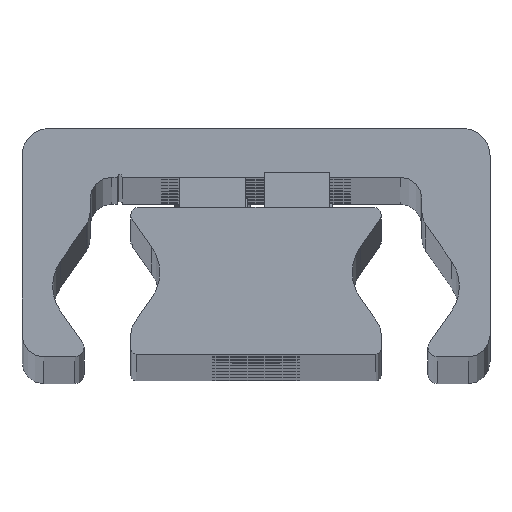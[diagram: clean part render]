
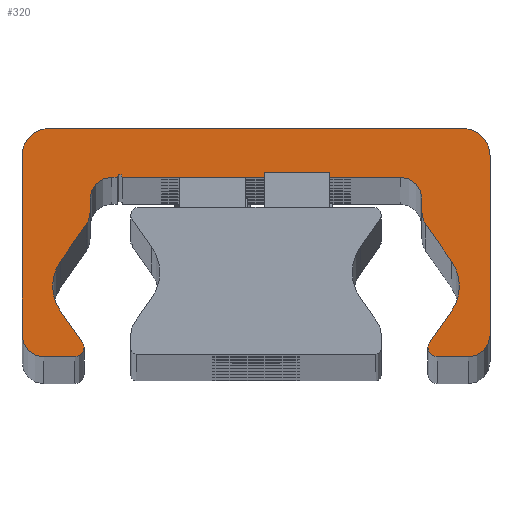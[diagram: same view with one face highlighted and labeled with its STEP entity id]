
A CAD part, top view. The second image highlights one B-rep face of the part: STEP entity #320.
In plain terms, the highlighted planar face has unit normal (0, 0, 1).
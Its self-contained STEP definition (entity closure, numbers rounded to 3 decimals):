
#320=ADVANCED_FACE('',(#910),#911,.T.);
#910=FACE_OUTER_BOUND('',#1501,.T.);
#911=PLANE('',#1502);
#1501=EDGE_LOOP('',(#3482,#3483,#3484,#3485,#3486,#3487,#3488,#3489,#3490,#3491,#3492,#3493,#3494,#3495,#3496,#3497,#3498,#3499,#3500,#3501,#3502,#3503,#3504,#3505,#3506,#3507,#3508,#3509,#3510,#3511));
#1502=AXIS2_PLACEMENT_3D('',#3512,#3513,#3514);
#3482=ORIENTED_EDGE('',*,*,#3899,.F.);
#3483=ORIENTED_EDGE('',*,*,#4182,.F.);
#3484=ORIENTED_EDGE('',*,*,#3885,.F.);
#3485=ORIENTED_EDGE('',*,*,#4181,.F.);
#3486=ORIENTED_EDGE('',*,*,#4177,.F.);
#3487=ORIENTED_EDGE('',*,*,#4174,.F.);
#3488=ORIENTED_EDGE('',*,*,#4171,.F.);
#3489=ORIENTED_EDGE('',*,*,#4168,.F.);
#3490=ORIENTED_EDGE('',*,*,#4165,.F.);
#3491=ORIENTED_EDGE('',*,*,#4162,.F.);
#3492=ORIENTED_EDGE('',*,*,#4159,.F.);
#3493=ORIENTED_EDGE('',*,*,#4156,.F.);
#3494=ORIENTED_EDGE('',*,*,#4153,.F.);
#3495=ORIENTED_EDGE('',*,*,#4150,.F.);
#3496=ORIENTED_EDGE('',*,*,#3891,.F.);
#3497=ORIENTED_EDGE('',*,*,#4148,.F.);
#3498=ORIENTED_EDGE('',*,*,#3893,.F.);
#3499=ORIENTED_EDGE('',*,*,#4147,.F.);
#3500=ORIENTED_EDGE('',*,*,#4143,.F.);
#3501=ORIENTED_EDGE('',*,*,#4140,.F.);
#3502=ORIENTED_EDGE('',*,*,#4137,.F.);
#3503=ORIENTED_EDGE('',*,*,#4134,.F.);
#3504=ORIENTED_EDGE('',*,*,#4131,.F.);
#3505=ORIENTED_EDGE('',*,*,#4128,.F.);
#3506=ORIENTED_EDGE('',*,*,#4125,.F.);
#3507=ORIENTED_EDGE('',*,*,#4122,.F.);
#3508=ORIENTED_EDGE('',*,*,#4119,.F.);
#3509=ORIENTED_EDGE('',*,*,#4116,.F.);
#3510=ORIENTED_EDGE('',*,*,#4113,.F.);
#3511=ORIENTED_EDGE('',*,*,#4110,.F.);
#3512=CARTESIAN_POINT('',(-0.023,14.187,687.0));
#3513=DIRECTION('',(0.0,0.0,1.0));
#3514=DIRECTION('',(1.0,0.0,0.0));
#3885=EDGE_CURVE('',#4720,#4723,#4724,.T.);
#3891=EDGE_CURVE('',#4733,#4729,#4735,.T.);
#3893=EDGE_CURVE('',#4736,#4739,#4740,.T.);
#3899=EDGE_CURVE('',#4749,#4745,#4751,.T.);
#4110=EDGE_CURVE('',#4745,#5090,#5091,.T.);
#4113=EDGE_CURVE('',#5090,#5095,#5096,.T.);
#4116=EDGE_CURVE('',#5095,#5100,#5101,.T.);
#4119=EDGE_CURVE('',#5100,#5105,#5106,.T.);
#4122=EDGE_CURVE('',#5105,#5110,#5111,.T.);
#4125=EDGE_CURVE('',#5110,#5115,#5116,.T.);
#4128=EDGE_CURVE('',#5115,#5120,#5121,.T.);
#4131=EDGE_CURVE('',#5120,#5125,#5126,.T.);
#4134=EDGE_CURVE('',#5125,#5130,#5131,.T.);
#4137=EDGE_CURVE('',#5130,#5135,#5136,.T.);
#4140=EDGE_CURVE('',#5135,#5140,#5141,.T.);
#4143=EDGE_CURVE('',#5140,#5145,#5146,.T.);
#4147=EDGE_CURVE('',#5145,#4736,#5151,.T.);
#4148=EDGE_CURVE('',#4739,#4733,#5152,.T.);
#4150=EDGE_CURVE('',#4729,#5154,#5155,.T.);
#4153=EDGE_CURVE('',#5154,#5159,#5160,.T.);
#4156=EDGE_CURVE('',#5159,#5164,#5165,.T.);
#4159=EDGE_CURVE('',#5164,#5169,#5170,.T.);
#4162=EDGE_CURVE('',#5169,#5174,#5175,.T.);
#4165=EDGE_CURVE('',#5174,#5179,#5180,.T.);
#4168=EDGE_CURVE('',#5179,#5184,#5185,.T.);
#4171=EDGE_CURVE('',#5184,#5189,#5190,.T.);
#4174=EDGE_CURVE('',#5189,#5194,#5195,.T.);
#4177=EDGE_CURVE('',#5194,#5199,#5200,.T.);
#4181=EDGE_CURVE('',#5199,#4720,#5205,.T.);
#4182=EDGE_CURVE('',#4723,#4749,#5206,.T.);
#4720=VERTEX_POINT('',#5912);
#4723=VERTEX_POINT('',#5916);
#4724=CIRCLE('',#5917,0.85);
#4729=VERTEX_POINT('',#5923);
#4733=VERTEX_POINT('',#5928);
#4735=CIRCLE('',#5931,0.85);
#4736=VERTEX_POINT('',#5932);
#4739=VERTEX_POINT('',#5936);
#4740=CIRCLE('',#5937,4.);
#4745=VERTEX_POINT('',#5943);
#4749=VERTEX_POINT('',#5948);
#4751=CIRCLE('',#5951,4.);
#5090=VERTEX_POINT('',#6388);
#5091=CIRCLE('',#6389,4.);
#5095=VERTEX_POINT('',#6394);
#5096=LINE('',#6395,#6396);
#5100=VERTEX_POINT('',#6402);
#5101=CIRCLE('',#6403,2.);
#5105=VERTEX_POINT('',#6408);
#5106=LINE('',#6409,#6410);
#5110=VERTEX_POINT('',#6416);
#5111=CIRCLE('',#6417,2.0);
#5115=VERTEX_POINT('',#6422);
#5116=LINE('',#6423,#6424);
#5120=VERTEX_POINT('',#6430);
#5121=CIRCLE('',#6431,0.25);
#5125=VERTEX_POINT('',#6436);
#5126=LINE('',#6437,#6438);
#5130=VERTEX_POINT('',#6444);
#5131=CIRCLE('',#6445,2.0);
#5135=VERTEX_POINT('',#6450);
#5136=LINE('',#6451,#6452);
#5140=VERTEX_POINT('',#6458);
#5141=CIRCLE('',#6459,2.0);
#5145=VERTEX_POINT('',#6464);
#5146=LINE('',#6465,#6466);
#5151=CIRCLE('',#6473,4.);
#5152=LINE('',#6474,#6475);
#5154=VERTEX_POINT('',#6478);
#5155=CIRCLE('',#6479,0.85);
#5159=VERTEX_POINT('',#6484);
#5160=LINE('',#6485,#6486);
#5164=VERTEX_POINT('',#6492);
#5165=CIRCLE('',#6493,2.);
#5169=VERTEX_POINT('',#6498);
#5170=LINE('',#6499,#6500);
#5174=VERTEX_POINT('',#6506);
#5175=CIRCLE('',#6507,2.5);
#5179=VERTEX_POINT('',#6512);
#5180=LINE('',#6513,#6514);
#5184=VERTEX_POINT('',#6520);
#5185=CIRCLE('',#6521,2.5);
#5189=VERTEX_POINT('',#6526);
#5190=LINE('',#6527,#6528);
#5194=VERTEX_POINT('',#6534);
#5195=CIRCLE('',#6535,2.);
#5199=VERTEX_POINT('',#6540);
#5200=LINE('',#6541,#6542);
#5205=CIRCLE('',#6549,0.85);
#5206=LINE('',#6550,#6551);
#5912=CARTESIAN_POINT('',(15.8,1.859,687.0));
#5916=CARTESIAN_POINT('',(15.922,2.298,687.0));
#5917=AXIS2_PLACEMENT_3D('',#7227,#7228,#7229);
#5923=CARTESIAN_POINT('',(-15.8,1.859,687.0));
#5928=CARTESIAN_POINT('',(-15.922,2.298,687.0));
#5931=AXIS2_PLACEMENT_3D('',#7239,#7240,#7241);
#5932=CARTESIAN_POINT('',(-18.688,7.509,687.0));
#5936=CARTESIAN_POINT('',(-17.964,5.214,687.0));
#5937=AXIS2_PLACEMENT_3D('',#7243,#7244,#7245);
#5943=CARTESIAN_POINT('',(18.688,7.509,687.0));
#5948=CARTESIAN_POINT('',(17.964,5.214,687.0));
#5951=AXIS2_PLACEMENT_3D('',#7255,#7256,#7257);
#6388=CARTESIAN_POINT('',(17.964,9.803,687.0));
#6389=AXIS2_PLACEMENT_3D('',#7692,#7693,#7694);
#6394=CARTESIAN_POINT('',(15.612,13.163,687.0));
#6395=CARTESIAN_POINT('',(15.612,13.163,687.0));
#6396=VECTOR('',#7699,1.0);
#6402=CARTESIAN_POINT('',(15.25,14.31,687.0));
#6403=AXIS2_PLACEMENT_3D('',#7702,#7703,#7704);
#6408=CARTESIAN_POINT('',(15.25,15.509,687.0));
#6409=CARTESIAN_POINT('',(15.25,15.509,687.0));
#6410=VECTOR('',#7709,1.0);
#6416=CARTESIAN_POINT('',(13.25,17.509,687.0));
#6417=AXIS2_PLACEMENT_3D('',#7712,#7713,#7714);
#6422=CARTESIAN_POINT('',(-12.25,17.509,687.0));
#6423=CARTESIAN_POINT('',(-12.25,17.509,687.0));
#6424=VECTOR('',#7719,1.0);
#6430=CARTESIAN_POINT('',(-12.75,17.509,687.0));
#6431=AXIS2_PLACEMENT_3D('',#7722,#7723,#7724);
#6436=CARTESIAN_POINT('',(-13.25,17.509,687.0));
#6437=CARTESIAN_POINT('',(-13.25,17.509,687.0));
#6438=VECTOR('',#7729,1.0);
#6444=CARTESIAN_POINT('',(-15.25,15.509,687.0));
#6445=AXIS2_PLACEMENT_3D('',#7732,#7733,#7734);
#6450=CARTESIAN_POINT('',(-15.25,14.31,687.0));
#6451=CARTESIAN_POINT('',(-15.25,14.31,687.0));
#6452=VECTOR('',#7739,1.0);
#6458=CARTESIAN_POINT('',(-15.612,13.163,687.0));
#6459=AXIS2_PLACEMENT_3D('',#7742,#7743,#7744);
#6464=CARTESIAN_POINT('',(-17.964,9.803,687.0));
#6465=CARTESIAN_POINT('',(-17.964,9.803,687.0));
#6466=VECTOR('',#7749,1.);
#6473=AXIS2_PLACEMENT_3D('',#7755,#7756,#7757);
#6474=CARTESIAN_POINT('',(-15.922,2.298,687.0));
#6475=VECTOR('',#7758,1.0);
#6478=CARTESIAN_POINT('',(-16.65,1.009,687.0));
#6479=AXIS2_PLACEMENT_3D('',#7760,#7761,#7762);
#6484=CARTESIAN_POINT('',(-19.5,1.009,687.0));
#6485=CARTESIAN_POINT('',(-19.5,1.009,687.0));
#6486=VECTOR('',#7767,1.0);
#6492=CARTESIAN_POINT('',(-21.5,3.009,687.0));
#6493=AXIS2_PLACEMENT_3D('',#7770,#7771,#7772);
#6498=CARTESIAN_POINT('',(-21.5,19.509,687.0));
#6499=CARTESIAN_POINT('',(-21.5,19.509,687.0));
#6500=VECTOR('',#7777,1.0);
#6506=CARTESIAN_POINT('',(-19.0,22.009,687.0));
#6507=AXIS2_PLACEMENT_3D('',#7780,#7781,#7782);
#6512=CARTESIAN_POINT('',(19.0,22.009,687.0));
#6513=CARTESIAN_POINT('',(19.0,22.009,687.0));
#6514=VECTOR('',#7787,1.0);
#6520=CARTESIAN_POINT('',(21.5,19.509,687.0));
#6521=AXIS2_PLACEMENT_3D('',#7790,#7791,#7792);
#6526=CARTESIAN_POINT('',(21.5,3.009,687.0));
#6527=CARTESIAN_POINT('',(21.5,3.009,687.0));
#6528=VECTOR('',#7797,1.0);
#6534=CARTESIAN_POINT('',(19.5,1.009,687.0));
#6535=AXIS2_PLACEMENT_3D('',#7800,#7801,#7802);
#6540=CARTESIAN_POINT('',(16.65,1.009,687.0));
#6541=CARTESIAN_POINT('',(16.65,1.009,687.0));
#6542=VECTOR('',#7807,1.0);
#6549=AXIS2_PLACEMENT_3D('',#7813,#7814,#7815);
#6550=CARTESIAN_POINT('',(17.964,5.214,687.0));
#6551=VECTOR('',#7816,1.0);
#7227=CARTESIAN_POINT('',(16.65,1.859,687.0));
#7228=DIRECTION('',(0.0,0.0,-1.0));
#7229=DIRECTION('',(1.0,0.0,0.0));
#7239=CARTESIAN_POINT('',(-16.65,1.859,687.0));
#7240=DIRECTION('',(0.0,0.0,-1.0));
#7241=DIRECTION('',(1.0,0.0,0.0));
#7243=CARTESIAN_POINT('',(-14.688,7.509,687.0));
#7244=DIRECTION('',(0.0,0.0,1.0));
#7245=DIRECTION('',(1.0,0.0,0.0));
#7255=CARTESIAN_POINT('',(14.688,7.509,687.0));
#7256=DIRECTION('',(0.0,0.0,1.0));
#7257=DIRECTION('',(1.0,0.0,0.0));
#7692=CARTESIAN_POINT('',(14.688,7.509,687.0));
#7693=DIRECTION('',(0.0,0.0,1.0));
#7694=DIRECTION('',(1.0,0.0,0.0));
#7699=DIRECTION('',(-0.574,0.819,0.0));
#7702=CARTESIAN_POINT('',(17.25,14.31,687.0));
#7703=DIRECTION('',(0.0,0.0,-1.0));
#7704=DIRECTION('',(1.0,0.0,0.0));
#7709=DIRECTION('',(0.0,1.0,0.0));
#7712=CARTESIAN_POINT('',(13.25,15.509,687.0));
#7713=DIRECTION('',(0.0,0.0,1.0));
#7714=DIRECTION('',(1.0,0.0,0.0));
#7719=DIRECTION('',(-1.0,-0.0,-0.0));
#7722=CARTESIAN_POINT('',(-12.5,17.509,687.0));
#7723=DIRECTION('',(0.0,0.0,1.0));
#7724=DIRECTION('',(1.0,0.0,0.0));
#7729=DIRECTION('',(-1.0,-0.0,-0.0));
#7732=CARTESIAN_POINT('',(-13.25,15.509,687.0));
#7733=DIRECTION('',(0.0,0.0,1.0));
#7734=DIRECTION('',(1.0,0.0,0.0));
#7739=DIRECTION('',(-0.0,-1.0,-0.0));
#7742=CARTESIAN_POINT('',(-17.25,14.31,687.0));
#7743=DIRECTION('',(0.0,0.0,-1.0));
#7744=DIRECTION('',(1.0,0.0,0.0));
#7749=DIRECTION('',(-0.574,-0.819,-0.0));
#7755=CARTESIAN_POINT('',(-14.688,7.509,687.0));
#7756=DIRECTION('',(0.0,0.0,1.0));
#7757=DIRECTION('',(1.0,0.0,0.0));
#7758=DIRECTION('',(0.574,-0.819,0.0));
#7760=CARTESIAN_POINT('',(-16.65,1.859,687.0));
#7761=DIRECTION('',(0.0,0.0,-1.0));
#7762=DIRECTION('',(1.0,0.0,0.0));
#7767=DIRECTION('',(-1.0,-0.0,-0.0));
#7770=CARTESIAN_POINT('',(-19.5,3.009,687.0));
#7771=DIRECTION('',(0.0,0.0,-1.0));
#7772=DIRECTION('',(1.0,0.0,0.0));
#7777=DIRECTION('',(0.0,1.0,0.0));
#7780=CARTESIAN_POINT('',(-19.0,19.509,687.0));
#7781=DIRECTION('',(0.0,0.0,-1.0));
#7782=DIRECTION('',(1.0,0.0,0.0));
#7787=DIRECTION('',(1.0,0.0,0.0));
#7790=CARTESIAN_POINT('',(19.0,19.509,687.0));
#7791=DIRECTION('',(0.0,0.0,-1.0));
#7792=DIRECTION('',(1.0,0.0,0.0));
#7797=DIRECTION('',(-0.0,-1.0,-0.0));
#7800=CARTESIAN_POINT('',(19.5,3.009,687.0));
#7801=DIRECTION('',(0.0,0.0,-1.0));
#7802=DIRECTION('',(1.0,0.0,0.0));
#7807=DIRECTION('',(-1.0,-0.0,-0.0));
#7813=CARTESIAN_POINT('',(16.65,1.859,687.0));
#7814=DIRECTION('',(0.0,0.0,-1.0));
#7815=DIRECTION('',(1.0,0.0,0.0));
#7816=DIRECTION('',(0.574,0.819,0.0));
